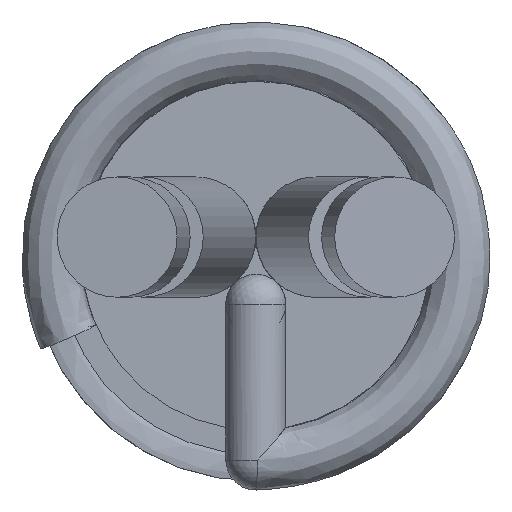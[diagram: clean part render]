
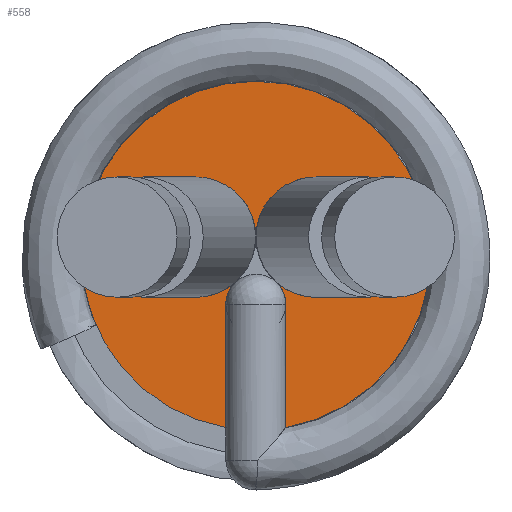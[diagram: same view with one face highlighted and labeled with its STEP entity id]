
A CAD part, left-side view. The second image highlights one B-rep face of the part: STEP entity #558.
In plain terms, the highlighted planar face has unit normal (-1, 0, 0).
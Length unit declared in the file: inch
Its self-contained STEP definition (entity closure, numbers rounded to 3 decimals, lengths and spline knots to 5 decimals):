
#36=PLANE('',#641);
#69=FACE_OUTER_BOUND('',#113,.T.);
#113=EDGE_LOOP('',(#411,#412,#413,#414,#415,#416,#417,#418,#419,#420));
#138=CIRCLE('',#605,0.02414);
#140=CIRCLE('',#608,0.02414);
#159=CIRCLE('',#642,0.07);
#160=CIRCLE('',#643,0.01207);
#161=CIRCLE('',#644,0.02414);
#162=CIRCLE('',#645,0.02414);
#163=CIRCLE('',#646,0.01207);
#164=CIRCLE('',#647,0.07);
#194=LINE('',#984,#217);
#217=VECTOR('',#781,0.3937);
#229=VERTEX_POINT('',#889);
#231=VERTEX_POINT('',#892);
#233=VERTEX_POINT('',#898);
#235=VERTEX_POINT('',#901);
#254=VERTEX_POINT('',#980);
#255=VERTEX_POINT('',#981);
#256=VERTEX_POINT('',#983);
#257=VERTEX_POINT('',#987);
#280=EDGE_CURVE('',#231,#229,#138,.T.);
#284=EDGE_CURVE('',#235,#233,#140,.T.);
#314=EDGE_CURVE('',#254,#255,#159,.T.);
#315=EDGE_CURVE('',#255,#256,#194,.T.);
#316=EDGE_CURVE('',#256,#235,#160,.T.);
#317=EDGE_CURVE('',#233,#231,#161,.T.);
#318=EDGE_CURVE('',#229,#257,#162,.T.);
#319=EDGE_CURVE('',#257,#256,#163,.T.);
#320=EDGE_CURVE('',#255,#254,#164,.T.);
#411=ORIENTED_EDGE('',*,*,#314,.T.);
#412=ORIENTED_EDGE('',*,*,#315,.T.);
#413=ORIENTED_EDGE('',*,*,#316,.T.);
#414=ORIENTED_EDGE('',*,*,#284,.T.);
#415=ORIENTED_EDGE('',*,*,#317,.T.);
#416=ORIENTED_EDGE('',*,*,#280,.T.);
#417=ORIENTED_EDGE('',*,*,#318,.T.);
#418=ORIENTED_EDGE('',*,*,#319,.T.);
#419=ORIENTED_EDGE('',*,*,#315,.F.);
#420=ORIENTED_EDGE('',*,*,#320,.T.);
#558=ADVANCED_FACE('',(#69),#36,.T.);
#605=AXIS2_PLACEMENT_3D('',#893,#695,#696);
#608=AXIS2_PLACEMENT_3D('',#902,#703,#704);
#641=AXIS2_PLACEMENT_3D('',#979,#777,#778);
#642=AXIS2_PLACEMENT_3D('',#982,#779,#780);
#643=AXIS2_PLACEMENT_3D('',#985,#782,#783);
#644=AXIS2_PLACEMENT_3D('',#986,#784,#785);
#645=AXIS2_PLACEMENT_3D('',#988,#786,#787);
#646=AXIS2_PLACEMENT_3D('',#989,#788,#789);
#647=AXIS2_PLACEMENT_3D('',#990,#790,#791);
#695=DIRECTION('center_axis',(1.,0.,0.));
#696=DIRECTION('ref_axis',(0.,0.664,-0.748));
#703=DIRECTION('center_axis',(1.,0.,0.));
#704=DIRECTION('ref_axis',(0.,-1.,0.));
#777=DIRECTION('center_axis',(-1.,0.,0.));
#778=DIRECTION('ref_axis',(0.,0.,1.));
#779=DIRECTION('center_axis',(-1.,0.,0.));
#780=DIRECTION('ref_axis',(0.,0.,-1.));
#781=DIRECTION('',(0.,0.,1.));
#782=DIRECTION('center_axis',(1.,0.,0.));
#783=DIRECTION('ref_axis',(0.,0.673,0.74));
#784=DIRECTION('center_axis',(1.,0.,0.));
#785=DIRECTION('ref_axis',(0.,-1.,0.));
#786=DIRECTION('center_axis',(1.,0.,0.));
#787=DIRECTION('ref_axis',(0.,0.664,-0.748));
#788=DIRECTION('center_axis',(1.,0.,0.));
#789=DIRECTION('ref_axis',(0.,0.,
-1.));
#790=DIRECTION('center_axis',(-1.,0.,0.));
#791=DIRECTION('ref_axis',(0.,0.,1.));
#889=CARTESIAN_POINT('',(0.64976,0.27869,0.0316));
#892=CARTESIAN_POINT('',(0.64976,0.30283,0.00746));
#893=CARTESIAN_POINT('Origin',(0.64976,0.27869,0.00746));
#898=CARTESIAN_POINT('',(0.64976,0.32697,0.0316));
#901=CARTESIAN_POINT('',(0.64976,0.31095,-0.0106));
#902=CARTESIAN_POINT('Origin',(0.64976,0.32697,0.00746));
#979=CARTESIAN_POINT('Origin',(0.64976,0.23283,0.));
#980=CARTESIAN_POINT('',(0.64977,0.30283,0.07));
#981=CARTESIAN_POINT('',(0.64976,0.30283,-0.07));
#982=CARTESIAN_POINT('Origin',(0.64976,0.30283,0.));
#983=CARTESIAN_POINT('',(0.64976,0.30283,-0.0316));
#984=CARTESIAN_POINT('',(0.64976,0.30283,-0.07));
#985=CARTESIAN_POINT('Origin',(0.64976,0.30283,-0.01953));
#986=CARTESIAN_POINT('Origin',(0.64976,0.32697,0.00746));
#987=CARTESIAN_POINT('',(0.64976,0.29471,-0.0106));
#988=CARTESIAN_POINT('Origin',(0.64976,0.27869,0.00746));
#989=CARTESIAN_POINT('Origin',(0.64976,0.30283,-0.01953));
#990=CARTESIAN_POINT('Origin',(0.64976,0.30283,0.));
